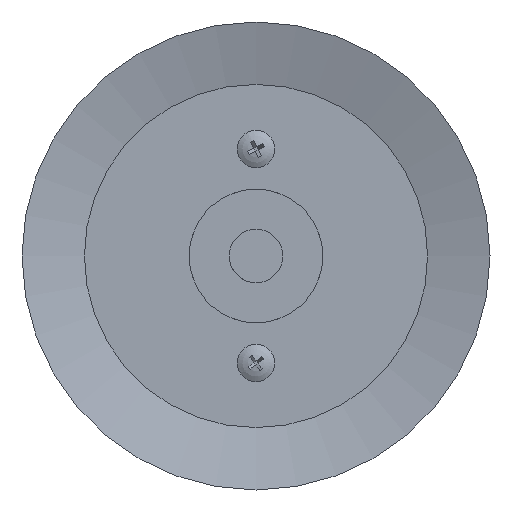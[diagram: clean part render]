
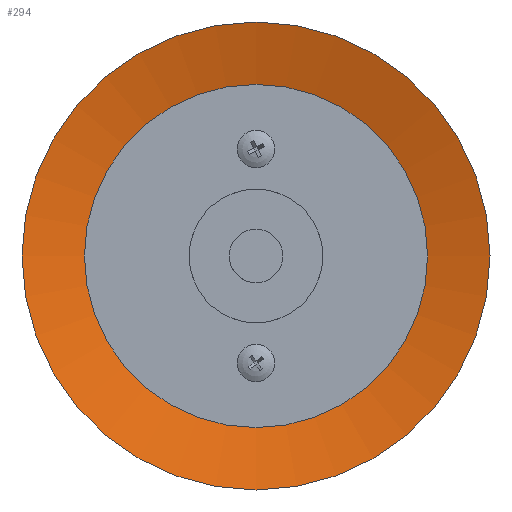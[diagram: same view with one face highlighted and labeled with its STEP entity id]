
A CAD part, left-side view. The second image highlights one B-rep face of the part: STEP entity #294.
In plain terms, the highlighted conical face has half-angle 75 degrees and reference radius 30.335 mm.
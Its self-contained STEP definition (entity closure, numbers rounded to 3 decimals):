
#179=CARTESIAN_POINT('',(-4.,35.0,0.0));
#180=VERTEX_POINT('',#179);
#181=CARTESIAN_POINT('',(-4.,0.0,0.0));
#182=DIRECTION('',(1.0,0.0,0.0));
#183=DIRECTION('',(0.0,1.0,0.0));
#184=AXIS2_PLACEMENT_3D('',#181,#182,#183);
#185=CIRCLE('',#184,35.0);
#186=EDGE_CURVE('',#180,#180,#185,.T.);
#262=CARTESIAN_POINT('',(-1.5,25.67,0.0));
#263=VERTEX_POINT('',#262);
#264=CARTESIAN_POINT('',(-1.5,0.0,0.0));
#265=DIRECTION('',(1.0,0.0,0.0));
#266=DIRECTION('',(0.0,1.0,0.0));
#267=AXIS2_PLACEMENT_3D('',#264,#265,#266);
#268=CIRCLE('',#267,25.67);
#269=EDGE_CURVE('',#263,#263,#268,.T.);
#283=CARTESIAN_POINT('',(-2.75,0.0,0.0));
#284=DIRECTION('',(-1.0,0.0,0.0));
#285=DIRECTION('',(0.0,1.0,0.0));
#286=AXIS2_PLACEMENT_3D('',#283,#284,#285);
#287=CONICAL_SURFACE('',#286,30.335,75.0);
#288=ORIENTED_EDGE('',*,*,#186,.F.);
#289=EDGE_LOOP('',(#288));
#290=FACE_OUTER_BOUND('',#289,.T.);
#291=ORIENTED_EDGE('',*,*,#269,.T.);
#292=EDGE_LOOP('',(#291));
#293=FACE_BOUND('',#292,.T.);
#294=ADVANCED_FACE('',(#290,#293),#287,.F.);
